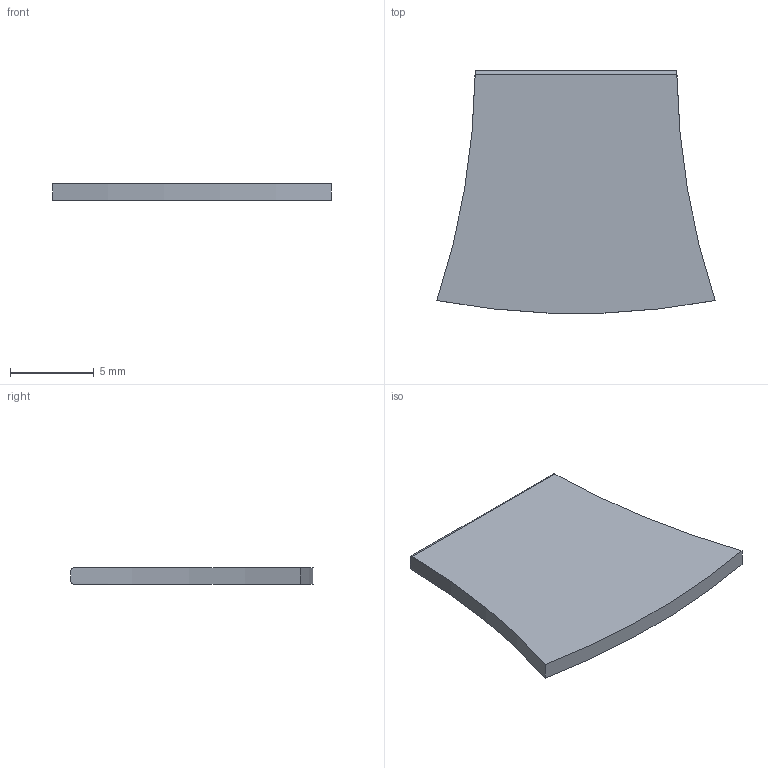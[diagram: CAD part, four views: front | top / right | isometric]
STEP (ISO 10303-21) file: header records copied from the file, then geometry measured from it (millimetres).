
FILE_DESCRIPTION(('FreeCAD Model'),'2;1');
FILE_NAME('Open CASCADE Shape Model','2026-02-13T10:40:22',(''),(''), 'Open CASCADE STEP processor 7.8','FreeCAD','Unknown');
FILE_SCHEMA(('AUTOMOTIVE_DESIGN { 1 0 10303 214 1 1 1 1 }'));
Length unit declared in the file: millimetre
Products named in the file (1): Body
Bounding box: 16.58 x 14.42 x 1 mm (x, y, z)
Volume: 194 mm3; surface area: 442.7 mm2
Topology: 1 solids, 1 shells, 8 faces, 18 edges, 12 vertices
Faces by surface type: cylinder 5, plane 3
Entity records: 270 total; most frequent: CARTESIAN_POINT 67, DIRECTION 38, ORIENTED_EDGE 36, EDGE_CURVE 18, AXIS2_PLACEMENT_3D 15, VERTEX_POINT 12, ADVANCED_FACE 8, FACE_BOUND 8
